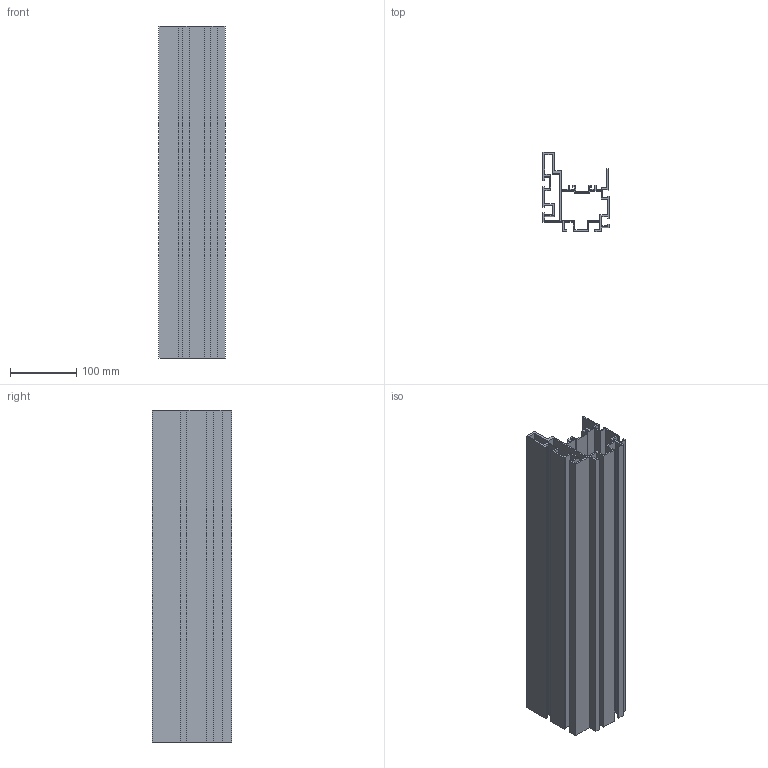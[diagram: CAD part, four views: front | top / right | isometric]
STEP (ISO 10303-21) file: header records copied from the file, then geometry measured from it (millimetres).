
FILE_DESCRIPTION (( 'STEP AP203' ), '1' );
FILE_NAME ('99x120 makara profili.STEP', '2022-02-01T12:49:39', ( '' ), ( '' ), 'SwSTEP 2.0', 'SolidWorks 2019', '' );
FILE_SCHEMA (( 'CONFIG_CONTROL_DESIGN' ));
Length unit declared in the file: millimetre
Products named in the file (1): 99x120 makara profili
Bounding box: 99.4 x 119.2 x 500 mm (x, y, z)
Volume: 787532.7 mm3; surface area: 669832.7 mm2
Topology: 1 solids, 1 shells, 114 faces, 336 edges, 224 vertices
Faces by surface type: plane 114
Entity records: 3805 total; most frequent: CARTESIAN_POINT 675, ORIENTED_EDGE 672, DIRECTION 566, LINE 336, VECTOR 336, EDGE_CURVE 336, VERTEX_POINT 224, EDGE_LOOP 118
